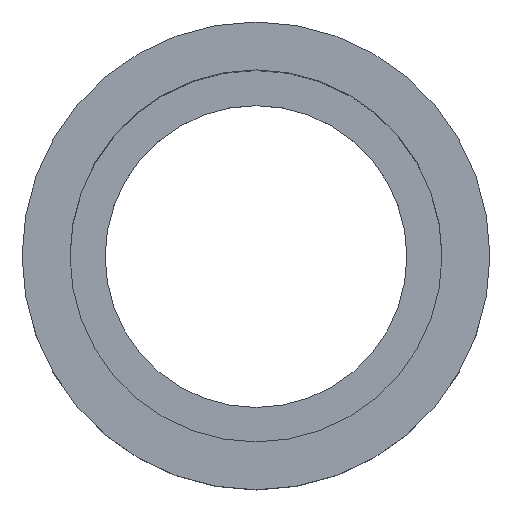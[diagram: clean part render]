
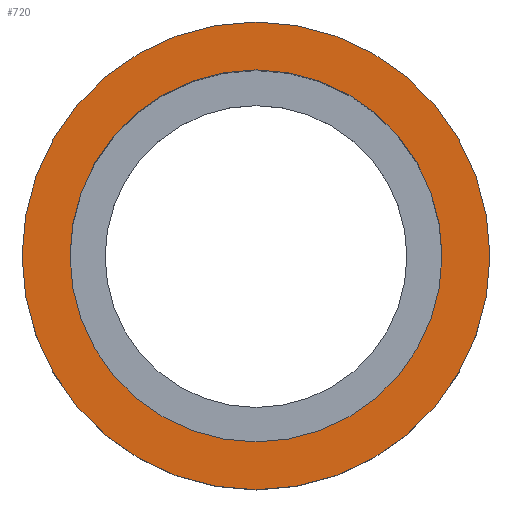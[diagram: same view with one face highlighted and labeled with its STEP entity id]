
A CAD part, top view. The second image highlights one B-rep face of the part: STEP entity #720.
In plain terms, the highlighted planar face has unit normal (0, 0, 1).
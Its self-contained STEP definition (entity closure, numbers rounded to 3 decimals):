
#370=CARTESIAN_POINT('',(26.653,28.417,91.415));
#380=DIRECTION('',(-0.,0.,1.));
#390=DIRECTION('',(0.,-1.,0.));
#400=AXIS2_PLACEMENT_3D('',#370,#380,#390);
#410=PLANE('',#400);
#420=CARTESIAN_POINT('',(26.653,56.805,91.415));
#430=DIRECTION('',(0.,0.,1.));
#440=DIRECTION('',(0.,1.,0.));
#450=AXIS2_PLACEMENT_3D('',#420,#430,#440);
#460=CIRCLE('',#450,24.65);
#470=CARTESIAN_POINT('',(26.653,81.455,91.415));
#480=VERTEX_POINT('',#470);
#490=CARTESIAN_POINT('',(26.653,32.155,91.415));
#500=VERTEX_POINT('',#490);
#510=EDGE_CURVE('',#480,#500,#460,.T.);
#520=ORIENTED_EDGE('',*,*,#510,.F.);
#530=EDGE_CURVE('',#500,#480,#460,.T.);
#540=ORIENTED_EDGE('',*,*,#530,.F.);
#550=EDGE_LOOP('',(#540,#520));
#560=FACE_BOUND('',#550,.T.);
#570=CARTESIAN_POINT('',(26.653,56.805,91.415));
#580=DIRECTION('',(0.,0.,-1.));
#590=DIRECTION('',(0.,1.,0.));
#600=AXIS2_PLACEMENT_3D('',#570,#580,#590);
#610=CIRCLE('',#600,31.);
#620=CARTESIAN_POINT('',(26.653,87.805,91.415));
#630=VERTEX_POINT('',#620);
#640=CARTESIAN_POINT('',(26.653,25.805,91.415));
#650=VERTEX_POINT('',#640);
#660=EDGE_CURVE('',#630,#650,#610,.T.);
#670=ORIENTED_EDGE('',*,*,#660,.F.);
#680=EDGE_CURVE('',#650,#630,#610,.T.);
#690=ORIENTED_EDGE('',*,*,#680,.F.);
#700=EDGE_LOOP('',(#690,#670));
#710=FACE_OUTER_BOUND('',#700,.T.);
#720=ADVANCED_FACE('',(#560,#710),#410,.T.);
